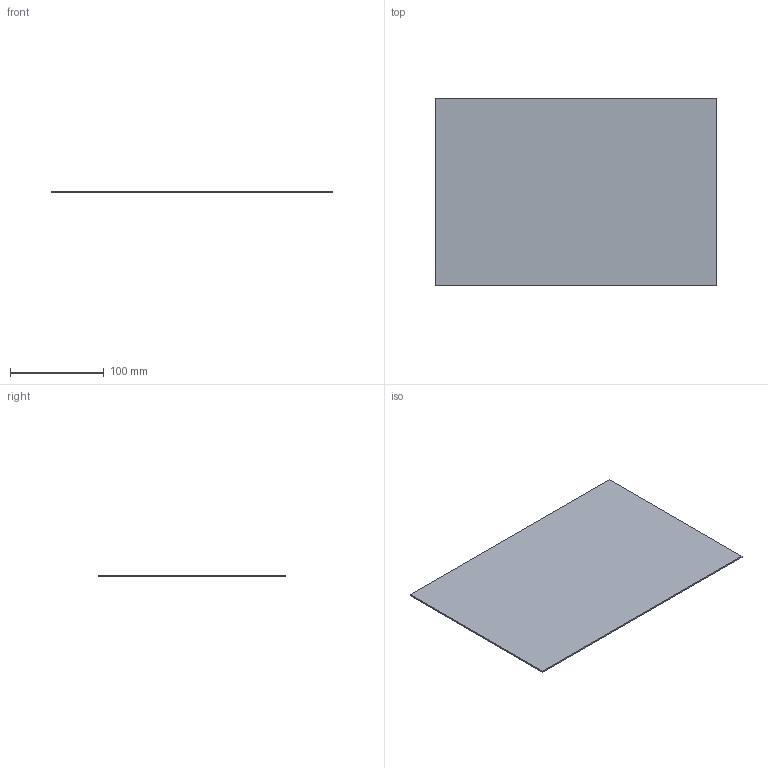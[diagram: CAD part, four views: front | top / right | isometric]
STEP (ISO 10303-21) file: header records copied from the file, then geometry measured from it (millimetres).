
FILE_DESCRIPTION(('KiCad electronic assembly'),'2;1');
FILE_NAME('board.step','2026-08-08T16:01:55',('Pcbnew'),('Kicad'), 'Open CASCADE STEP processor 7.9','KiCad to STEP converter','Unknown' );
FILE_SCHEMA(('AUTOMOTIVE_DESIGN { 1 0 10303 214 1 1 1 1 }'));
Length unit declared in the file: millimetre
Products named in the file (2): board 1; ds_xl_coder_PCB
Assembly tree (1 placements, depth 2):
  board 1
    ds_xl_coder_PCB
Bounding box: 300 x 200 x 1.51 mm (x, y, z)
Volume: 90600 mm3; surface area: 121510 mm2
Topology: 1 solids, 1 shells, 6 faces, 12 edges, 8 vertices
Faces by surface type: plane 6
Entity records: 193 total; most frequent: CARTESIAN_POINT 28, DIRECTION 28, ORIENTED_EDGE 24, EDGE_CURVE 12, LINE 12, VECTOR 12, AXIS2_PLACEMENT_3D 8, VERTEX_POINT 8
